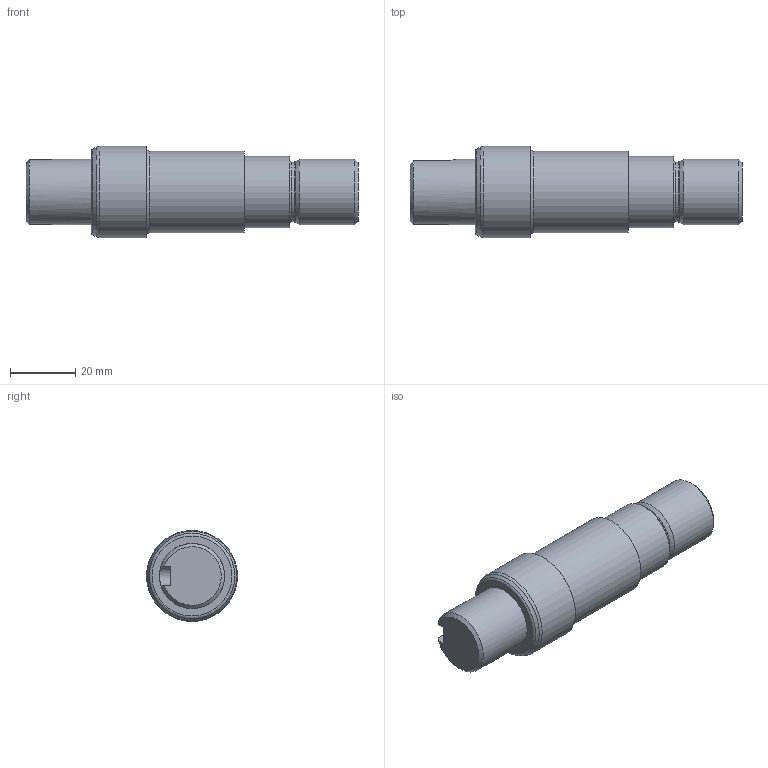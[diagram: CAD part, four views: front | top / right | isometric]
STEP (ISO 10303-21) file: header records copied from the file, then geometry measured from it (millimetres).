
FILE_DESCRIPTION(/* description */ (''),/* implementation_level */ '2;1');
FILE_NAME(/* name */ 'C:\Users\Administrator\Desktop\601003E1008\601003E1008-3D.stp',/* time_stamp */ '2020-10-17T11:39:09+09:00',/* author */ ('Administrator'),/* organization */ (''),/* preprocessor_version */ 'ST-DEVELOPER v15.2',/* originating_system */ 'Autodesk Inventor 2014',/* authorisation */ '');
FILE_SCHEMA (('AUTOMOTIVE_DESIGN { 1 0 10303 214 3 1 1 }'));
Length unit declared in the file: millimetre
Products named in the file (1): 601003E1008-3D
Bounding box: 102 x 28 x 28 mm (x, y, z)
Volume: 42873.9 mm3; surface area: 8541.6 mm2
Topology: 1 solids, 1 shells, 25 faces, 48 edges, 29 vertices
Faces by surface type: plane 9, cylinder 7, torus 5, cone 4
Full cylindrical faces by diameter (mm): 18.383 x1, 20 x2, 22 x1, 25 x1, 28 x1
Entity records: 597 total; most frequent: CARTESIAN_POINT 111, DIRECTION 103, ORIENTED_EDGE 68, AXIS2_PLACEMENT_3D 47, EDGE_LOOP 43, EDGE_CURVE 34, VERTEX_POINT 29, ADVANCED_FACE 25
